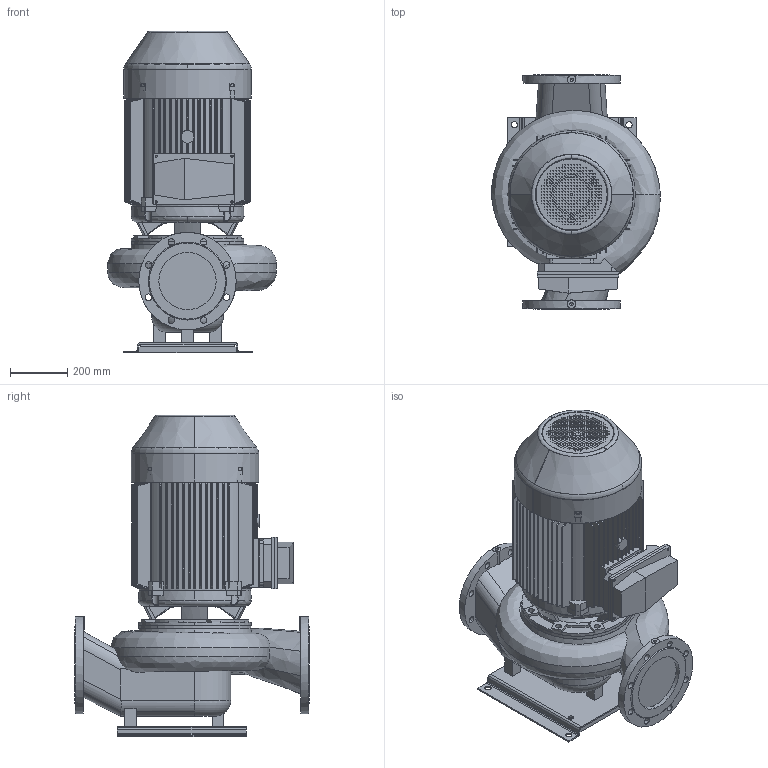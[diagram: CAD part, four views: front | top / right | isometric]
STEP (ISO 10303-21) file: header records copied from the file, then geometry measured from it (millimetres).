
FILE_DESCRIPTION(('STEP AP214'),'1');
FILE_NAME('export.stp','2018-05-28T10:57:27',(' '),(' '),'Spatial InterOp 3D',' ',' ');
FILE_SCHEMA(('AUTOMOTIVE_DESIGN { 1 0 10303 214 1 1 1 1 }'));
Length unit declared in the file: millimetre
Products named in the file (13): W_AL12024450KP225; V_TLL100SAL1202; V_PPAL1202; P100464; P100462; P101191; V_MKP225-K2-F32; R200066; R200624; R200115; R200325; R200138; R200137
Assembly tree (13 placements, depth 3):
  W_AL12024450KP225
    V_TLL100SAL1202
    V_PPAL1202
    P100464
      P100462
      P101191  x2
    V_MKP225-K2-F32
      R200066
      R200624
      R200115
      R200325
      R200138
      R200137
Bounding box: 589.15 x 820.22 x 1122 mm (x, y, z)
Volume: 80610048.6 mm3; surface area: 6592694.8 mm2
Topology: 11 solids, 11 shells, 2724 faces, 7873 edges, 5207 vertices
Faces by surface type: plane 1685, cylinder 756, cone 193, torus 51, bspline 39
Entity records: 157171 total; most frequent: CARTESIAN_POINT 30903, ORIENTED_EDGE 15562, DIRECTION 13232, STYLED_ITEM 9391, PRESENTATION_STYLE_ASSIGNMENT 9391, COLOUR_RGB 9391, EDGE_CURVE 7781, CURVE_STYLE 6689
